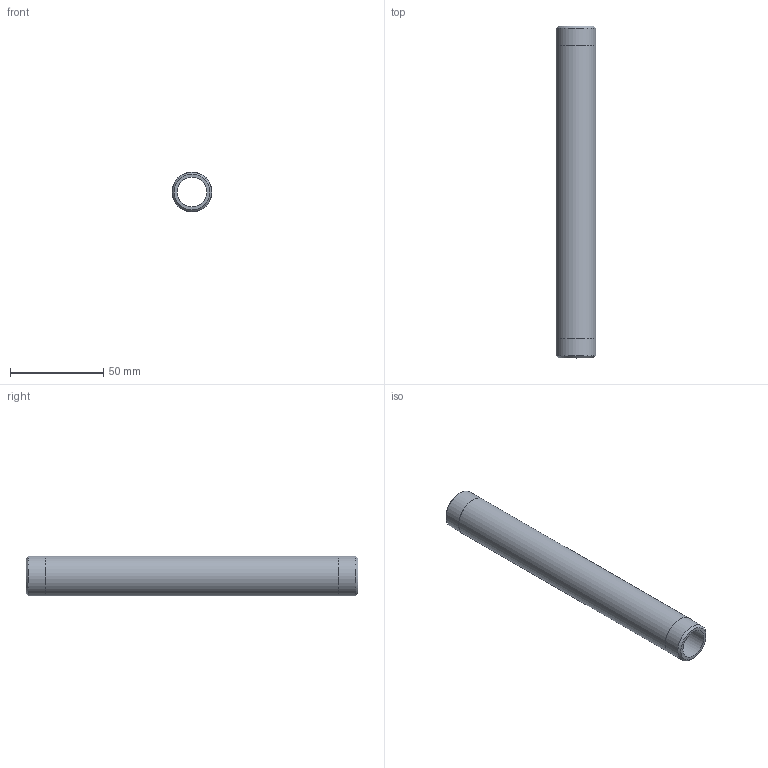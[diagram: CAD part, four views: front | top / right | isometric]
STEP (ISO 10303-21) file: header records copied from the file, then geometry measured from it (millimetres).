
FILE_DESCRIPTION(/* description */ (''),/* implementation_level */ '2;1');
FILE_NAME(/* name */ 'C:/Users/drich/Desktop/BPN12-7 v1.step',/* time_stamp */ '2020-01-03T14:34:07-06:00',/* author */ (''),/* organization */ (''),/* preprocessor_version */ 'ST-DEVELOPER v18',/* originating_system */ 'Autodesk Translation Framework v8.12.0.6',/* authorisation */ '');
FILE_SCHEMA (('AUTOMOTIVE_DESIGN { 1 0 10303 214 3 1 1 }'));
Length unit declared in the file: inch
Products named in the file (1): BPN12-7
Bounding box: 21.34 x 177.8 x 21.34 mm (x, y, z)
Volume: 28593.4 mm3; surface area: 20969.2 mm2
Topology: 1 solids, 1 shells, 10 faces, 24 edges, 18 vertices
Faces by surface type: cylinder 4, plane 4, cone 2
Full cylindrical faces by diameter (mm): 15.799 x1, 21.285 x2, 21.336 x1
Entity records: 360 total; most frequent: DIRECTION 64, CARTESIAN_POINT 53, ORIENTED_EDGE 48, AXIS2_PLACEMENT_3D 29, EDGE_CURVE 24, CIRCLE 18, VERTEX_POINT 18, EDGE_LOOP 14
